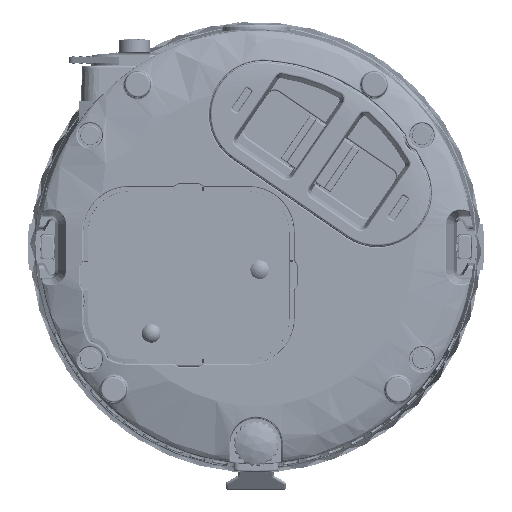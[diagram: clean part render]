
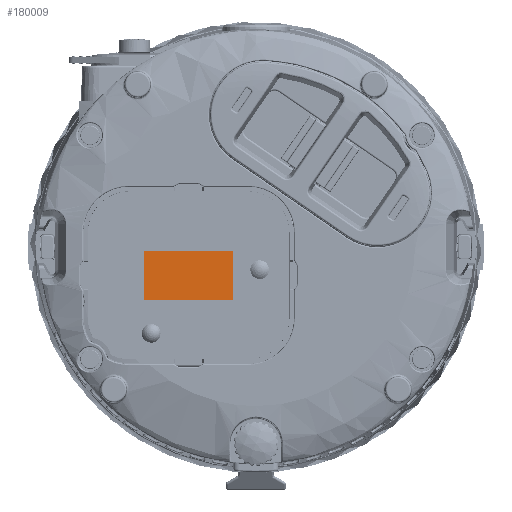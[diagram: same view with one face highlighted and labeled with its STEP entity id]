
A CAD part, front view. The second image highlights one B-rep face of the part: STEP entity #180009.
In plain terms, the highlighted planar face has unit normal (0, -1, 0) as drawn and (0, 1, 0) by its records, which use the part's own axes.
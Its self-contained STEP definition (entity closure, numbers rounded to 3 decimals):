
#4977 = CARTESIAN_POINT ( 'NONE',  ( -12., 0.43, -8.2 ) ) ;
#19684 = CARTESIAN_POINT ( 'NONE',  ( 12., 0.43, 5. ) ) ;
#26035 = EDGE_CURVE ( 'NONE', #63907, #52709, #196358, .T. ) ;
#27036 = CARTESIAN_POINT ( 'NONE',  ( -12., 0.43, 5. ) ) ;
#41224 = ORIENTED_EDGE ( 'NONE', *, *, #356412, .T. ) ;
#43504 = CARTESIAN_POINT ( 'NONE',  ( -12., 0.43, -8.2 ) ) ;
#52709 = VERTEX_POINT ( 'NONE', #357494 ) ;
#57076 = DIRECTION ( 'NONE',  ( 0., -1., 0. ) ) ;
#58238 = VECTOR ( 'NONE', #151124, 1000. ) ;
#63907 = VERTEX_POINT ( 'NONE', #313392 ) ;
#93341 = DIRECTION ( 'NONE',  ( -1., 0., 0. ) ) ;
#99816 = EDGE_CURVE ( 'NONE', #104567, #237021, #112550, .T. ) ;
#104567 = VERTEX_POINT ( 'NONE', #43504 ) ;
#112550 = LINE ( 'NONE', #27036, #58238 ) ;
#151124 = DIRECTION ( 'NONE',  ( 0., 0., 1. ) ) ;
#166487 = CARTESIAN_POINT ( 'NONE',  ( -12., 0.43, 5. ) ) ;
#172115 = CARTESIAN_POINT ( 'NONE',  ( 12., 0.43, -8.2 ) ) ;
#178328 = DIRECTION ( 'NONE',  ( 1., 0., 0. ) ) ;
#180009 = ADVANCED_FACE ( 'NONE', ( #281010 ), #407373, .F. ) ;
#185337 = DIRECTION ( 'NONE',  ( 0., 0., -1. ) ) ;
#196358 = LINE ( 'NONE', #172115, #260450 ) ;
#203818 = DIRECTION ( 'NONE',  ( 0., 0., -1. ) ) ;
#218394 = CARTESIAN_POINT ( 'NONE',  ( 0., 0.43, 0. ) ) ;
#237021 = VERTEX_POINT ( 'NONE', #166487 ) ;
#242815 = LINE ( 'NONE', #19684, #282355 ) ;
#258776 = AXIS2_PLACEMENT_3D ( 'NONE', #218394, #57076, #185337 ) ;
#260450 = VECTOR ( 'NONE', #203818, 1000. ) ;
#281010 = FACE_OUTER_BOUND ( 'NONE', #335188, .T. ) ;
#282355 = VECTOR ( 'NONE', #178328, 1000. ) ;
#313392 = CARTESIAN_POINT ( 'NONE',  ( 12., 0.43, 5. ) ) ;
#330329 = VECTOR ( 'NONE', #93341, 1000. ) ;
#331018 = ORIENTED_EDGE ( 'NONE', *, *, #26035, .T. ) ;
#335188 = EDGE_LOOP ( 'NONE', ( #409198, #378007, #331018, #41224 ) ) ;
#351583 = EDGE_CURVE ( 'NONE', #237021, #63907, #242815, .T. ) ;
#356412 = EDGE_CURVE ( 'NONE', #52709, #104567, #369840, .T. ) ;
#357494 = CARTESIAN_POINT ( 'NONE',  ( 12., 0.43, -8.2 ) ) ;
#369840 = LINE ( 'NONE', #4977, #330329 ) ;
#378007 = ORIENTED_EDGE ( 'NONE', *, *, #351583, .T. ) ;
#407373 = PLANE ( 'NONE',  #258776 ) ;
#409198 = ORIENTED_EDGE ( 'NONE', *, *, #99816, .T. ) ;
